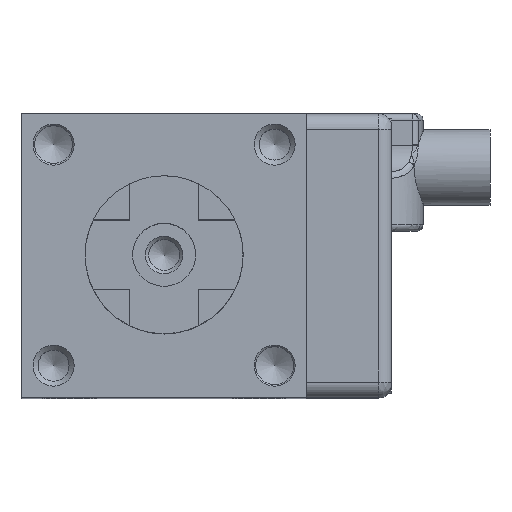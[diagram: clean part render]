
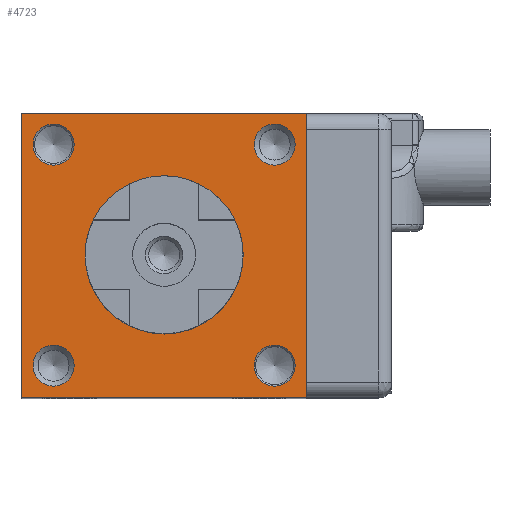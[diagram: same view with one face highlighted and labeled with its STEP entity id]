
A CAD part, top view. The second image highlights one B-rep face of the part: STEP entity #4723.
In plain terms, the highlighted planar face has unit normal (0, 0, 1).
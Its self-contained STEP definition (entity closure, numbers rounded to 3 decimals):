
#186=FACE_BOUND('',#990,.T.);
#187=FACE_BOUND('',#991,.T.);
#188=FACE_BOUND('',#992,.T.);
#189=FACE_BOUND('',#993,.T.);
#190=FACE_BOUND('',#994,.T.);
#262=CIRCLE('',#5084,8.);
#263=CIRCLE('',#5085,8.);
#268=CIRCLE('',#5093,3.25);
#269=CIRCLE('',#5094,3.25);
#274=CIRCLE('',#5102,3.25);
#275=CIRCLE('',#5103,3.25);
#280=CIRCLE('',#5111,3.25);
#281=CIRCLE('',#5112,3.25);
#286=CIRCLE('',#5120,3.25);
#287=CIRCLE('',#5121,3.25);
#693=FACE_OUTER_BOUND('',#989,.T.);
#989=EDGE_LOOP('',(#3588,#3589,#3590,#3591));
#990=EDGE_LOOP('',(#3592,#3593));
#991=EDGE_LOOP('',(#3594,#3595));
#992=EDGE_LOOP('',(#3596,#3597));
#993=EDGE_LOOP('',(#3598,#3599));
#994=EDGE_LOOP('',(#3600,#3601));
#1316=LINE('',#7545,#1675);
#1318=LINE('',#7549,#1677);
#1320=LINE('',#7553,#1679);
#1322=LINE('',#7556,#1681);
#1675=VECTOR('',#6118,10.);
#1677=VECTOR('',#6122,10.);
#1679=VECTOR('',#6126,10.);
#1681=VECTOR('',#6130,10.);
#1990=VERTEX_POINT('',#7218);
#1991=VERTEX_POINT('',#7219);
#1997=VERTEX_POINT('',#7236);
#1998=VERTEX_POINT('',#7237);
#2004=VERTEX_POINT('',#7255);
#2005=VERTEX_POINT('',#7256);
#2011=VERTEX_POINT('',#7274);
#2012=VERTEX_POINT('',#7275);
#2018=VERTEX_POINT('',#7293);
#2019=VERTEX_POINT('',#7294);
#2110=VERTEX_POINT('',#7542);
#2111=VERTEX_POINT('',#7544);
#2112=VERTEX_POINT('',#7548);
#2113=VERTEX_POINT('',#7552);
#2498=EDGE_CURVE('',#1990,#1991,#262,.T.);
#2499=EDGE_CURVE('',#1991,#1990,#263,.T.);
#2506=EDGE_CURVE('',#1997,#1998,#268,.T.);
#2507=EDGE_CURVE('',#1998,#1997,#269,.T.);
#2515=EDGE_CURVE('',#2004,#2005,#274,.T.);
#2516=EDGE_CURVE('',#2005,#2004,#275,.T.);
#2524=EDGE_CURVE('',#2011,#2012,#280,.T.);
#2525=EDGE_CURVE('',#2012,#2011,#281,.T.);
#2533=EDGE_CURVE('',#2018,#2019,#286,.T.);
#2534=EDGE_CURVE('',#2019,#2018,#287,.T.);
#2652=EDGE_CURVE('',#2111,#2110,#1316,.T.);
#2654=EDGE_CURVE('',#2112,#2111,#1318,.T.);
#2656=EDGE_CURVE('',#2113,#2112,#1320,.T.);
#2658=EDGE_CURVE('',#2110,#2113,#1322,.T.);
#3588=ORIENTED_EDGE('',*,*,#2658,.T.);
#3589=ORIENTED_EDGE('',*,*,#2656,.T.);
#3590=ORIENTED_EDGE('',*,*,#2654,.T.);
#3591=ORIENTED_EDGE('',*,*,#2652,.T.);
#3592=ORIENTED_EDGE('',*,*,#2498,.T.);
#3593=ORIENTED_EDGE('',*,*,#2499,.T.);
#3594=ORIENTED_EDGE('',*,*,#2506,.T.);
#3595=ORIENTED_EDGE('',*,*,#2507,.T.);
#3596=ORIENTED_EDGE('',*,*,#2515,.T.);
#3597=ORIENTED_EDGE('',*,*,#2516,.T.);
#3598=ORIENTED_EDGE('',*,*,#2524,.T.);
#3599=ORIENTED_EDGE('',*,*,#2525,.T.);
#3600=ORIENTED_EDGE('',*,*,#2533,.T.);
#3601=ORIENTED_EDGE('',*,*,#2534,.T.);
#4536=PLANE('',#5238);
#4723=ADVANCED_FACE('',(#693,#186,#187,#188,#189,#190),#4536,.T.);
#5084=AXIS2_PLACEMENT_3D('',#7220,#5762,#5763);
#5085=AXIS2_PLACEMENT_3D('',#7221,#5764,#5765);
#5093=AXIS2_PLACEMENT_3D('',#7238,#5782,#5783);
#5094=AXIS2_PLACEMENT_3D('',#7239,#5784,#5785);
#5102=AXIS2_PLACEMENT_3D('',#7257,#5803,#5804);
#5103=AXIS2_PLACEMENT_3D('',#7258,#5805,#5806);
#5111=AXIS2_PLACEMENT_3D('',#7276,#5824,#5825);
#5112=AXIS2_PLACEMENT_3D('',#7277,#5826,#5827);
#5120=AXIS2_PLACEMENT_3D('',#7295,#5845,#5846);
#5121=AXIS2_PLACEMENT_3D('',#7296,#5847,#5848);
#5238=AXIS2_PLACEMENT_3D('',#7557,#6131,#6132);
#5762=DIRECTION('center_axis',(0.,0.,-1.));
#5763=DIRECTION('ref_axis',(1.,0.,0.));
#5764=DIRECTION('center_axis',(0.,0.,-1.));
#5765=DIRECTION('ref_axis',(1.,0.,0.));
#5782=DIRECTION('center_axis',(0.,0.,-1.));
#5783=DIRECTION('ref_axis',(1.,0.,0.));
#5784=DIRECTION('center_axis',(0.,0.,-1.));
#5785=DIRECTION('ref_axis',(1.,0.,0.));
#5803=DIRECTION('center_axis',(0.,0.,-1.));
#5804=DIRECTION('ref_axis',(1.,0.,0.));
#5805=DIRECTION('center_axis',(0.,0.,-1.));
#5806=DIRECTION('ref_axis',(1.,0.,0.));
#5824=DIRECTION('center_axis',(0.,0.,-1.));
#5825=DIRECTION('ref_axis',(1.,0.,0.));
#5826=DIRECTION('center_axis',(0.,0.,-1.));
#5827=DIRECTION('ref_axis',(1.,0.,0.));
#5845=DIRECTION('center_axis',(0.,0.,-1.));
#5846=DIRECTION('ref_axis',(1.,0.,0.));
#5847=DIRECTION('center_axis',(0.,0.,-1.));
#5848=DIRECTION('ref_axis',(1.,0.,0.));
#6118=DIRECTION('',(0.,-1.,0.));
#6122=DIRECTION('',(-1.,0.,0.));
#6126=DIRECTION('',(0.,1.,0.));
#6130=DIRECTION('',(1.,0.,0.));
#6131=DIRECTION('center_axis',(0.,0.,1.));
#6132=DIRECTION('ref_axis',(1.,0.,0.));
#7218=CARTESIAN_POINT('',(8.,0.,95.));
#7219=CARTESIAN_POINT('',(-8.,0.,95.));
#7220=CARTESIAN_POINT('Origin',(0.,0.,95.));
#7221=CARTESIAN_POINT('Origin',(0.,0.,95.));
#7236=CARTESIAN_POINT('',(-14.25,17.5,95.));
#7237=CARTESIAN_POINT('',(-20.75,17.5,95.));
#7238=CARTESIAN_POINT('Origin',(-17.5,17.5,95.));
#7239=CARTESIAN_POINT('Origin',(-17.5,17.5,95.));
#7255=CARTESIAN_POINT('',(20.75,-17.5,95.));
#7256=CARTESIAN_POINT('',(14.25,-17.5,95.));
#7257=CARTESIAN_POINT('Origin',(17.5,-17.5,95.));
#7258=CARTESIAN_POINT('Origin',(17.5,-17.5,95.));
#7274=CARTESIAN_POINT('',(-14.25,-17.5,95.));
#7275=CARTESIAN_POINT('',(-20.75,-17.5,95.));
#7276=CARTESIAN_POINT('Origin',(-17.5,-17.5,95.));
#7277=CARTESIAN_POINT('Origin',(-17.5,-17.5,95.));
#7293=CARTESIAN_POINT('',(20.75,17.5,95.));
#7294=CARTESIAN_POINT('',(14.25,17.5,95.));
#7295=CARTESIAN_POINT('Origin',(17.5,17.5,95.));
#7296=CARTESIAN_POINT('Origin',(17.5,17.5,95.));
#7542=CARTESIAN_POINT('',(-22.5,-22.5,95.));
#7544=CARTESIAN_POINT('',(-22.5,22.5,95.));
#7545=CARTESIAN_POINT('',(-22.5,22.5,95.));
#7548=CARTESIAN_POINT('',(22.5,22.5,95.));
#7549=CARTESIAN_POINT('',(22.5,22.5,95.));
#7552=CARTESIAN_POINT('',(22.5,-22.5,95.));
#7553=CARTESIAN_POINT('',(22.5,-22.5,95.));
#7556=CARTESIAN_POINT('',(-22.5,-22.5,95.));
#7557=CARTESIAN_POINT('Origin',(0.,0.,95.));
